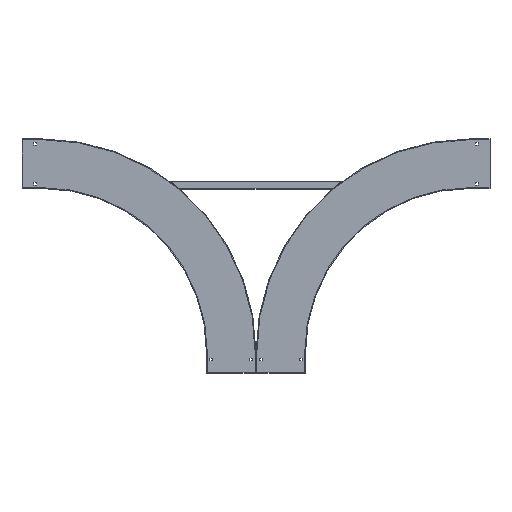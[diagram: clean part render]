
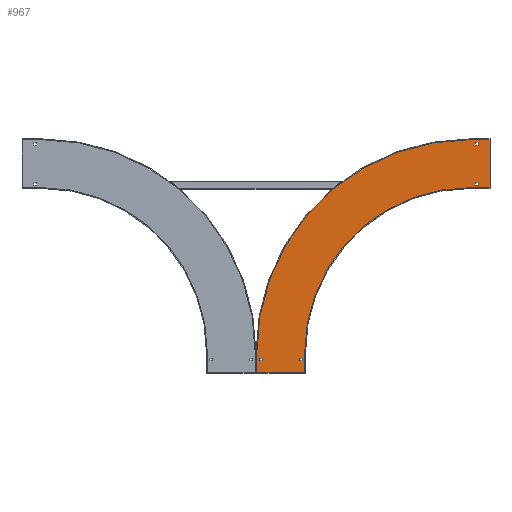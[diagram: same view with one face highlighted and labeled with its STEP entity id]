
A CAD part, top view. The second image highlights one B-rep face of the part: STEP entity #967.
In plain terms, the highlighted planar face has unit normal (0, 0, 1) as drawn and (1, 0, 0) by its records, which use the part's own axes.
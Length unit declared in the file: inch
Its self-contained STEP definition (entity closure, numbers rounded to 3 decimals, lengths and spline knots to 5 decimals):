
#9=DIRECTION('',(0.,1.,0.));
#10=VECTOR('',#9,7.02);
#11=CARTESIAN_POINT('',(0.1,0.11,0.));
#12=LINE('',#11,#10);
#194=DIRECTION('',(0.,0.,1.));
#195=VECTOR('',#194,3.);
#196=CARTESIAN_POINT('',(0.1,7.13,0.));
#197=LINE('',#196,#195);
#198=DIRECTION('',(0.,0.,1.));
#199=VECTOR('',#198,3.);
#200=CARTESIAN_POINT('',(0.1,0.11,0.));
#201=LINE('',#200,#199);
#202=CARTESIAN_POINT('',(0.1,-24.,3.));
#203=DIRECTION('',(1.,0.,0.));
#204=DIRECTION('',(0.,1.,0.));
#205=AXIS2_PLACEMENT_3D('',#202,#203,#204);
#207=DIRECTION('',(0.,-1.,0.));
#208=VECTOR('',#207,3.);
#209=CARTESIAN_POINT('',(0.1,-24.,27.11));
#210=LINE('',#209,#208);
#211=DIRECTION('',(0.,0.,-1.));
#212=VECTOR('',#211,0.41);
#213=CARTESIAN_POINT('',(0.1,0.498,2.165));
#214=LINE('',#213,#212);
#215=DIRECTION('',(0.,1.,0.));
#216=VECTOR('',#215,0.41);
#217=CARTESIAN_POINT('',(0.1,0.498,1.755));
#218=LINE('',#217,#216);
#219=DIRECTION('',(0.,0.,1.));
#220=VECTOR('',#219,0.41);
#221=CARTESIAN_POINT('',(0.1,0.908,1.755));
#222=LINE('',#221,#220);
#223=DIRECTION('',(0.,-1.,0.));
#224=VECTOR('',#223,0.41);
#225=CARTESIAN_POINT('',(0.1,0.908,2.165));
#226=LINE('',#225,#224);
#227=DIRECTION('',(0.,1.,0.));
#228=VECTOR('',#227,0.41);
#229=CARTESIAN_POINT('',(0.1,6.333,1.755));
#230=LINE('',#229,#228);
#231=DIRECTION('',(0.,0.,1.));
#232=VECTOR('',#231,0.41);
#233=CARTESIAN_POINT('',(0.1,6.743,1.755));
#234=LINE('',#233,#232);
#235=DIRECTION('',(0.,-1.,0.));
#236=VECTOR('',#235,0.41);
#237=CARTESIAN_POINT('',(0.1,6.743,2.165));
#238=LINE('',#237,#236);
#239=DIRECTION('',(0.,0.,-1.));
#240=VECTOR('',#239,0.41);
#241=CARTESIAN_POINT('',(0.1,6.333,2.165));
#242=LINE('',#241,#240);
#243=DIRECTION('',(0.,1.,0.));
#244=VECTOR('',#243,0.41);
#245=CARTESIAN_POINT('',(0.1,-25.245,27.498));
#246=LINE('',#245,#244);
#247=DIRECTION('',(0.,0.,1.));
#248=VECTOR('',#247,0.41);
#249=CARTESIAN_POINT('',(0.1,-24.835,27.498));
#250=LINE('',#249,#248);
#251=DIRECTION('',(0.,-1.,0.));
#252=VECTOR('',#251,0.41);
#253=CARTESIAN_POINT('',(0.1,-24.835,27.908));
#254=LINE('',#253,#252);
#255=DIRECTION('',(0.,0.,-1.));
#256=VECTOR('',#255,0.41);
#257=CARTESIAN_POINT('',(0.1,-25.245,27.908));
#258=LINE('',#257,#256);
#259=DIRECTION('',(0.,1.,0.));
#260=VECTOR('',#259,0.41);
#261=CARTESIAN_POINT('',(0.1,-25.245,33.333));
#262=LINE('',#261,#260);
#263=DIRECTION('',(0.,0.,1.));
#264=VECTOR('',#263,0.41);
#265=CARTESIAN_POINT('',(0.1,-24.835,33.333));
#266=LINE('',#265,#264);
#267=DIRECTION('',(0.,-1.,0.));
#268=VECTOR('',#267,0.41);
#269=CARTESIAN_POINT('',(0.1,-24.835,33.743));
#270=LINE('',#269,#268);
#271=DIRECTION('',(0.,0.,-1.));
#272=VECTOR('',#271,0.41);
#273=CARTESIAN_POINT('',(0.1,-25.245,33.743));
#274=LINE('',#273,#272);
#336=DIRECTION('',(0.,0.,1.));
#337=VECTOR('',#336,7.02);
#338=CARTESIAN_POINT('',(0.1,-27.,27.11));
#339=LINE('',#338,#337);
#416=DIRECTION('',(0.,-1.,0.));
#417=VECTOR('',#416,3.);
#418=CARTESIAN_POINT('',(0.1,-24.,34.13));
#419=LINE('',#418,#417);
#424=CARTESIAN_POINT('',(0.1,-24.,3.));
#425=DIRECTION('',(1.,0.,0.));
#426=DIRECTION('',(0.,1.,0.));
#427=AXIS2_PLACEMENT_3D('',#424,#425,#426);
#497=CARTESIAN_POINT('',(0.1,0.11,0.));
#498=VERTEX_POINT('',#497);
#499=CARTESIAN_POINT('',(0.1,7.13,0.));
#500=VERTEX_POINT('',#499);
#518=CARTESIAN_POINT('',(0.1,0.11,3.));
#520=VERTEX_POINT('',#518);
#521=CARTESIAN_POINT('',(0.1,7.13,3.));
#523=VERTEX_POINT('',#521);
#542=CARTESIAN_POINT('',(0.1,-24.,27.11));
#544=VERTEX_POINT('',#542);
#545=CARTESIAN_POINT('',(0.1,-24.,34.13));
#547=VERTEX_POINT('',#545);
#569=CARTESIAN_POINT('',(0.1,-27.,27.11));
#570=VERTEX_POINT('',#569);
#571=CARTESIAN_POINT('',(0.1,-27.,34.13));
#572=VERTEX_POINT('',#571);
#589=CARTESIAN_POINT('',(0.1,0.498,2.165));
#590=CARTESIAN_POINT('',(0.1,0.498,1.755));
#591=VERTEX_POINT('',#589);
#592=VERTEX_POINT('',#590);
#593=CARTESIAN_POINT('',(0.1,0.908,1.755));
#594=VERTEX_POINT('',#593);
#595=CARTESIAN_POINT('',(0.1,0.908,2.165));
#596=VERTEX_POINT('',#595);
#597=CARTESIAN_POINT('',(0.1,6.333,1.755));
#598=CARTESIAN_POINT('',(0.1,6.743,1.755));
#599=VERTEX_POINT('',#597);
#600=VERTEX_POINT('',#598);
#601=CARTESIAN_POINT('',(0.1,6.743,2.165));
#602=VERTEX_POINT('',#601);
#603=CARTESIAN_POINT('',(0.1,6.333,2.165));
#604=VERTEX_POINT('',#603);
#621=CARTESIAN_POINT('',(0.1,-25.245,27.498));
#622=CARTESIAN_POINT('',(0.1,-24.835,27.498));
#623=VERTEX_POINT('',#621);
#624=VERTEX_POINT('',#622);
#625=CARTESIAN_POINT('',(0.1,-24.835,27.908));
#626=VERTEX_POINT('',#625);
#627=CARTESIAN_POINT('',(0.1,-25.245,27.908));
#628=VERTEX_POINT('',#627);
#629=CARTESIAN_POINT('',(0.1,-25.245,33.333));
#630=CARTESIAN_POINT('',(0.1,-24.835,33.333));
#631=VERTEX_POINT('',#629);
#632=VERTEX_POINT('',#630);
#633=CARTESIAN_POINT('',(0.1,-24.835,33.743));
#634=VERTEX_POINT('',#633);
#635=CARTESIAN_POINT('',(0.1,-25.245,33.743));
#636=VERTEX_POINT('',#635);
#906=CARTESIAN_POINT('',(0.1,0.11,0.));
#907=DIRECTION('',(1.,0.,0.));
#908=DIRECTION('',(0.,1.,0.));
#909=AXIS2_PLACEMENT_3D('',#906,#907,#908);
#910=PLANE('',#909);
#911=ORIENTED_EDGE('',*,*,#662,.F.);
#913=ORIENTED_EDGE('',*,*,#912,.T.);
#915=ORIENTED_EDGE('',*,*,#914,.T.);
#917=ORIENTED_EDGE('',*,*,#916,.T.);
#919=ORIENTED_EDGE('',*,*,#918,.T.);
#921=ORIENTED_EDGE('',*,*,#920,.F.);
#923=ORIENTED_EDGE('',*,*,#922,.F.);
#924=ORIENTED_EDGE('',*,*,#898,.F.);
#925=EDGE_LOOP('',(#911,#913,#915,#917,#919,#921,#923,#924));
#926=FACE_OUTER_BOUND('',#925,.F.);
#928=ORIENTED_EDGE('',*,*,#927,.T.);
#930=ORIENTED_EDGE('',*,*,#929,.T.);
#932=ORIENTED_EDGE('',*,*,#931,.T.);
#934=ORIENTED_EDGE('',*,*,#933,.T.);
#935=EDGE_LOOP('',(#928,#930,#932,#934));
#936=FACE_BOUND('',#935,.F.);
#938=ORIENTED_EDGE('',*,*,#937,.T.);
#940=ORIENTED_EDGE('',*,*,#939,.T.);
#942=ORIENTED_EDGE('',*,*,#941,.T.);
#944=ORIENTED_EDGE('',*,*,#943,.T.);
#945=EDGE_LOOP('',(#938,#940,#942,#944));
#946=FACE_BOUND('',#945,.F.);
#948=ORIENTED_EDGE('',*,*,#947,.T.);
#950=ORIENTED_EDGE('',*,*,#949,.T.);
#952=ORIENTED_EDGE('',*,*,#951,.T.);
#954=ORIENTED_EDGE('',*,*,#953,.T.);
#955=EDGE_LOOP('',(#948,#950,#952,#954));
#956=FACE_BOUND('',#955,.F.);
#958=ORIENTED_EDGE('',*,*,#957,.T.);
#960=ORIENTED_EDGE('',*,*,#959,.T.);
#962=ORIENTED_EDGE('',*,*,#961,.T.);
#964=ORIENTED_EDGE('',*,*,#963,.T.);
#965=EDGE_LOOP('',(#958,#960,#962,#964));
#966=FACE_BOUND('',#965,.F.);
#967=ADVANCED_FACE('',(#926,#936,#946,#956,#966),#910,.T.);
#206=CIRCLE('',#205,24.11);
#428=CIRCLE('',#427,31.13);
#662=EDGE_CURVE('',#498,#500,#12,.T.);
#898=EDGE_CURVE('',#500,#523,#197,.T.);
#912=EDGE_CURVE('',#498,#520,#201,.T.);
#914=EDGE_CURVE('',#520,#544,#206,.T.);
#916=EDGE_CURVE('',#544,#570,#210,.T.);
#918=EDGE_CURVE('',#570,#572,#339,.T.);
#920=EDGE_CURVE('',#547,#572,#419,.T.);
#922=EDGE_CURVE('',#523,#547,#428,.T.);
#927=EDGE_CURVE('',#591,#592,#214,.T.);
#929=EDGE_CURVE('',#592,#594,#218,.T.);
#931=EDGE_CURVE('',#594,#596,#222,.T.);
#933=EDGE_CURVE('',#596,#591,#226,.T.);
#937=EDGE_CURVE('',#599,#600,#230,.T.);
#939=EDGE_CURVE('',#600,#602,#234,.T.);
#941=EDGE_CURVE('',#602,#604,#238,.T.);
#943=EDGE_CURVE('',#604,#599,#242,.T.);
#947=EDGE_CURVE('',#623,#624,#246,.T.);
#949=EDGE_CURVE('',#624,#626,#250,.T.);
#951=EDGE_CURVE('',#626,#628,#254,.T.);
#953=EDGE_CURVE('',#628,#623,#258,.T.);
#957=EDGE_CURVE('',#631,#632,#262,.T.);
#959=EDGE_CURVE('',#632,#634,#266,.T.);
#961=EDGE_CURVE('',#634,#636,#270,.T.);
#963=EDGE_CURVE('',#636,#631,#274,.T.);
